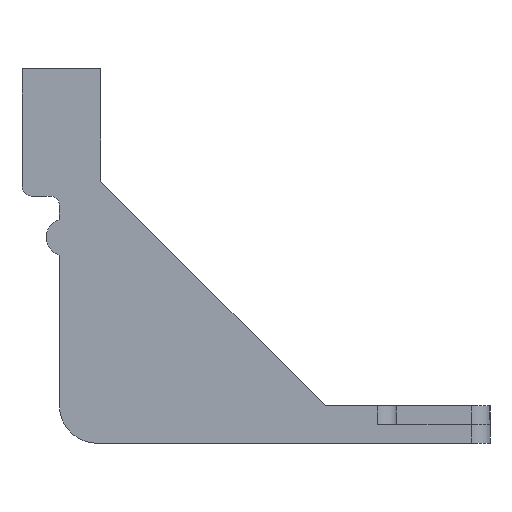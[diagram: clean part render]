
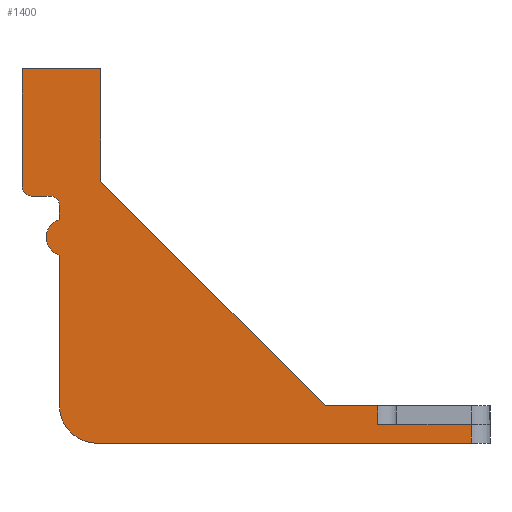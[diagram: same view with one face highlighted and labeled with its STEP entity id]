
A CAD part, front view. The second image highlights one B-rep face of the part: STEP entity #1400.
In plain terms, the highlighted planar face has unit normal (0, -1, 0).
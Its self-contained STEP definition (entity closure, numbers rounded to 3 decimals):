
#262=CARTESIAN_POINT('',(24.,0.,1.0));
#263=VERTEX_POINT('',#262);
#271=CARTESIAN_POINT('',(24.,0.,0.0));
#272=VERTEX_POINT('',#271);
#273=CARTESIAN_POINT('',(24.,0.,0.0));
#274=DIRECTION('',(0.0,0.0,1.0));
#275=VECTOR('',#274,1.0);
#276=LINE('',#273,#275);
#277=EDGE_CURVE('',#272,#263,#276,.T.);
#409=CARTESIAN_POINT('',(19.,0.,1.0));
#410=VERTEX_POINT('',#409);
#418=CARTESIAN_POINT('',(24.,0.,1.0));
#419=DIRECTION('',(-1.0,0.0,0.0));
#420=VECTOR('',#419,5.0);
#421=LINE('',#418,#420);
#422=EDGE_CURVE('',#263,#410,#421,.T.);
#441=CARTESIAN_POINT('',(19.,0.,2.0));
#442=VERTEX_POINT('',#441);
#450=CARTESIAN_POINT('',(19.,0.0,2.0));
#451=DIRECTION('',(0.0,0.0,-1.0));
#452=VECTOR('',#451,1.0);
#453=LINE('',#450,#452);
#454=EDGE_CURVE('',#442,#410,#453,.T.);
#787=CARTESIAN_POINT('',(4.,0.0,0.0));
#788=VERTEX_POINT('',#787);
#789=CARTESIAN_POINT('',(24.,0.0,0.0));
#790=DIRECTION('',(-1.0,0.0,0.0));
#791=VECTOR('',#790,20.);
#792=LINE('',#789,#791);
#793=EDGE_CURVE('',#272,#788,#792,.T.);
#1291=CARTESIAN_POINT('',(8.558,0.0,6.057));
#1292=DIRECTION('',(0.0,-1.0,0.0));
#1293=DIRECTION('',(1.0,0.0,0.0));
#1294=AXIS2_PLACEMENT_3D('',#1291,#1292,#1293);
#1295=PLANE('',#1294);
#1296=ORIENTED_EDGE('',*,*,#454,.F.);
#1297=CARTESIAN_POINT('',(16.2,0.0,2.));
#1298=VERTEX_POINT('',#1297);
#1299=CARTESIAN_POINT('',(16.2,0.0,2.0));
#1300=DIRECTION('',(1.0,0.0,0.0));
#1301=VECTOR('',#1300,2.8);
#1302=LINE('',#1299,#1301);
#1303=EDGE_CURVE('',#1298,#442,#1302,.T.);
#1304=ORIENTED_EDGE('',*,*,#1303,.F.);
#1305=CARTESIAN_POINT('',(4.2,0.0,14.));
#1306=VERTEX_POINT('',#1305);
#1307=CARTESIAN_POINT('',(4.2,0.0,14.));
#1308=DIRECTION('',(0.707,0.0,-0.707));
#1309=VECTOR('',#1308,16.971);
#1310=LINE('',#1307,#1309);
#1311=EDGE_CURVE('',#1306,#1298,#1310,.T.);
#1312=ORIENTED_EDGE('',*,*,#1311,.F.);
#1313=CARTESIAN_POINT('',(4.2,0.0,20.));
#1314=VERTEX_POINT('',#1313);
#1315=CARTESIAN_POINT('',(4.2,0.0,14.));
#1316=DIRECTION('',(0.0,0.0,1.0));
#1317=VECTOR('',#1316,6.);
#1318=LINE('',#1315,#1317);
#1319=EDGE_CURVE('',#1306,#1314,#1318,.T.);
#1320=ORIENTED_EDGE('',*,*,#1319,.T.);
#1321=CARTESIAN_POINT('',(0.0,0.0,20.));
#1322=VERTEX_POINT('',#1321);
#1323=CARTESIAN_POINT('',(4.2,0.0,20.));
#1324=DIRECTION('',(-1.0,0.0,0.0));
#1325=VECTOR('',#1324,4.2);
#1326=LINE('',#1323,#1325);
#1327=EDGE_CURVE('',#1314,#1322,#1326,.T.);
#1328=ORIENTED_EDGE('',*,*,#1327,.T.);
#1329=CARTESIAN_POINT('',(0.,0.0,13.7));
#1330=VERTEX_POINT('',#1329);
#1331=CARTESIAN_POINT('',(0.0,0.0,13.7));
#1332=DIRECTION('',(0.0,0.0,1.0));
#1333=VECTOR('',#1332,6.3);
#1334=LINE('',#1331,#1333);
#1335=EDGE_CURVE('',#1330,#1322,#1334,.T.);
#1336=ORIENTED_EDGE('',*,*,#1335,.F.);
#1337=CARTESIAN_POINT('',(0.5,0.0,13.2));
#1338=VERTEX_POINT('',#1337);
#1339=CARTESIAN_POINT('',(0.5,0.0,13.7));
#1340=DIRECTION('',(0.0,1.0,0.0));
#1341=DIRECTION('',(-1.0,0.0,0.));
#1342=AXIS2_PLACEMENT_3D('',#1339,#1340,#1341);
#1343=CIRCLE('',#1342,0.5);
#1344=EDGE_CURVE('',#1338,#1330,#1343,.T.);
#1345=ORIENTED_EDGE('',*,*,#1344,.F.);
#1346=CARTESIAN_POINT('',(1.5,0.0,13.2));
#1347=VERTEX_POINT('',#1346);
#1348=CARTESIAN_POINT('',(1.5,0.0,13.2));
#1349=DIRECTION('',(-1.0,0.0,0.0));
#1350=VECTOR('',#1349,1.0);
#1351=LINE('',#1348,#1350);
#1352=EDGE_CURVE('',#1347,#1338,#1351,.T.);
#1353=ORIENTED_EDGE('',*,*,#1352,.F.);
#1354=CARTESIAN_POINT('',(2.0,0.0,12.7));
#1355=VERTEX_POINT('',#1354);
#1356=CARTESIAN_POINT('',(1.5,0.0,12.7));
#1357=DIRECTION('',(0.0,-1.0,0.0));
#1358=DIRECTION('',(1.0,0.0,0.));
#1359=AXIS2_PLACEMENT_3D('',#1356,#1357,#1358);
#1360=CIRCLE('',#1359,0.5);
#1361=EDGE_CURVE('',#1355,#1347,#1360,.T.);
#1362=ORIENTED_EDGE('',*,*,#1361,.F.);
#1363=CARTESIAN_POINT('',(2.,0.0,11.954));
#1364=VERTEX_POINT('',#1363);
#1365=CARTESIAN_POINT('',(2.0,0.0,11.954));
#1366=DIRECTION('',(0.0,0.0,1.0));
#1367=VECTOR('',#1366,0.746);
#1368=LINE('',#1365,#1367);
#1369=EDGE_CURVE('',#1364,#1355,#1368,.T.);
#1370=ORIENTED_EDGE('',*,*,#1369,.F.);
#1371=CARTESIAN_POINT('',(2.0,0.0,10.046));
#1372=VERTEX_POINT('',#1371);
#1373=CARTESIAN_POINT('',(2.3,0.0,11.0));
#1374=DIRECTION('',(0.0,1.0,0.0));
#1375=DIRECTION('',(-0.3,0.0,0.954));
#1376=AXIS2_PLACEMENT_3D('',#1373,#1374,#1375);
#1377=CIRCLE('',#1376,1.);
#1378=EDGE_CURVE('',#1372,#1364,#1377,.T.);
#1379=ORIENTED_EDGE('',*,*,#1378,.F.);
#1380=CARTESIAN_POINT('',(2.,0.0,2.0));
#1381=VERTEX_POINT('',#1380);
#1382=CARTESIAN_POINT('',(2.0,0.0,2.0));
#1383=DIRECTION('',(0.0,0.0,1.0));
#1384=VECTOR('',#1383,8.046);
#1385=LINE('',#1382,#1384);
#1386=EDGE_CURVE('',#1381,#1372,#1385,.T.);
#1387=ORIENTED_EDGE('',*,*,#1386,.F.);
#1388=CARTESIAN_POINT('',(4.,0.0,2.));
#1389=DIRECTION('',(0.0,1.0,0.0));
#1390=DIRECTION('',(-1.0,0.0,0.));
#1391=AXIS2_PLACEMENT_3D('',#1388,#1389,#1390);
#1392=CIRCLE('',#1391,2.);
#1393=EDGE_CURVE('',#788,#1381,#1392,.T.);
#1394=ORIENTED_EDGE('',*,*,#1393,.F.);
#1395=ORIENTED_EDGE('',*,*,#793,.F.);
#1396=ORIENTED_EDGE('',*,*,#277,.T.);
#1397=ORIENTED_EDGE('',*,*,#422,.T.);
#1398=EDGE_LOOP('',(#1296,#1304,#1312,#1320,#1328,#1336,#1345,#1353,#1362,#1370,#1379,#1387,#1394,#1395,#1396,#1397));
#1399=FACE_OUTER_BOUND('',#1398,.T.);
#1400=ADVANCED_FACE('',(#1399),#1295,.T.);
